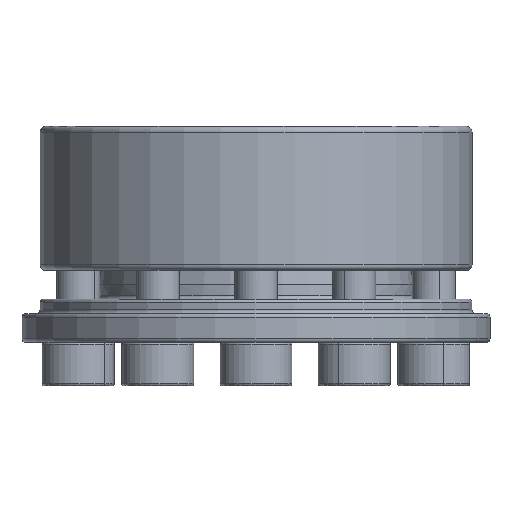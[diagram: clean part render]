
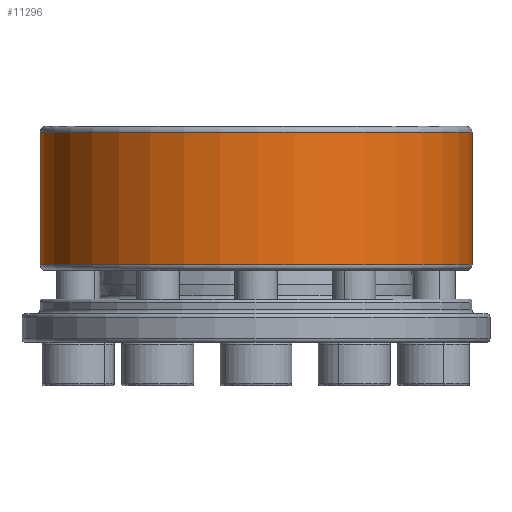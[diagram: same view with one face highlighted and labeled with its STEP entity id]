
A CAD part, front view. The second image highlights one B-rep face of the part: STEP entity #11296.
In plain terms, the highlighted cylindrical face has radius 30 mm (diameter 60 mm), a partial arc.
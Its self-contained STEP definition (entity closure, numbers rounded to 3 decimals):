
#48 = VERTEX_POINT ( 'NONE', #11399 ) ;
#51 = VERTEX_POINT ( 'NONE', #11506 ) ;
#55 = VERTEX_POINT ( 'NONE', #11461 ) ;
#68 = VERTEX_POINT ( 'NONE', #11373 ) ;
#1622 = EDGE_CURVE ( 'NONE', #55, #48, #3773, .T. ) ;
#1626 = EDGE_CURVE ( 'NONE', #51, #68, #3777, .T. ) ;
#1627 = EDGE_CURVE ( 'NONE', #68, #48, #3776, .T. ) ;
#1628 = EDGE_CURVE ( 'NONE', #55, #51, #3778, .T. ) ;
#3239 = ORIENTED_EDGE ( 'NONE', *, *, #1627, .T. ) ;
#3270 = ORIENTED_EDGE ( 'NONE', *, *, #1628, .T. ) ;
#3275 = ORIENTED_EDGE ( 'NONE', *, *, #1622, .F. ) ;
#3303 = ORIENTED_EDGE ( 'NONE', *, *, #1626, .T. ) ;
#3475 = EDGE_LOOP ( 'NONE', ( #3303, #3239, #3275, #3270 ) ) ;
#3773 = CIRCLE ( 'NONE', #4138, 30. ) ;
#3776 = LINE ( 'NONE', #4788, #3779 ) ;
#3777 = CIRCLE ( 'NONE', #4141, 30. ) ;
#3778 = LINE ( 'NONE', #4792, #3781 ) ;
#3779 = VECTOR ( 'NONE', #4776, 1000. ) ;
#3781 = VECTOR ( 'NONE', #4793, 1000. ) ;
#4138 = AXIS2_PLACEMENT_3D ( 'NONE', #4773, #4774, #4775 ) ;
#4141 = AXIS2_PLACEMENT_3D ( 'NONE', #4789, #4790, #4791 ) ;
#4773 = CARTESIAN_POINT ( 'NONE',  ( 0., 0., -0.8 ) ) ;
#4774 = DIRECTION ( 'NONE',  ( 0., 0., 1. ) ) ;
#4775 = DIRECTION ( 'NONE',  ( 1., 0., 0. ) ) ;
#4776 = DIRECTION ( 'NONE',  ( 0., 0., 1. ) ) ;
#4788 = CARTESIAN_POINT ( 'NONE',  ( 30., 0., 2. ) ) ;
#4789 = CARTESIAN_POINT ( 'NONE',  ( 0., 0., -19.2 ) ) ;
#4790 = DIRECTION ( 'NONE',  ( 0., 0., 1. ) ) ;
#4791 = DIRECTION ( 'NONE',  ( 1., 0., 0. ) ) ;
#4792 = CARTESIAN_POINT ( 'NONE',  ( -29.996, -0.5, 2. ) ) ;
#4793 = DIRECTION ( 'NONE',  ( 0., 0., -1. ) ) ;
#6490 = FACE_OUTER_BOUND ( 'NONE', #3475, .T. ) ;
#6499 = CYLINDRICAL_SURFACE ( 'NONE', #7869, 30. ) ;
#7869 = AXIS2_PLACEMENT_3D ( 'NONE', #9325, #9319, #9317 ) ;
#9317 = DIRECTION ( 'NONE',  ( 1., 0., 0. ) ) ;
#9319 = DIRECTION ( 'NONE',  ( 0., 0., 1. ) ) ;
#9325 = CARTESIAN_POINT ( 'NONE',  ( 0., 0., 2. ) ) ;
#11296 = ADVANCED_FACE ( 'NONE', ( #6490 ), #6499, .T. ) ;
#11373 = CARTESIAN_POINT ( 'NONE',  ( 30., 0., -19.2 ) ) ;
#11399 = CARTESIAN_POINT ( 'NONE',  ( 30., 0., -0.8 ) ) ;
#11461 = CARTESIAN_POINT ( 'NONE',  ( -29.996, -0.5, -0.8 ) ) ;
#11506 = CARTESIAN_POINT ( 'NONE',  ( -29.996, -0.5, -19.2 ) ) ;
